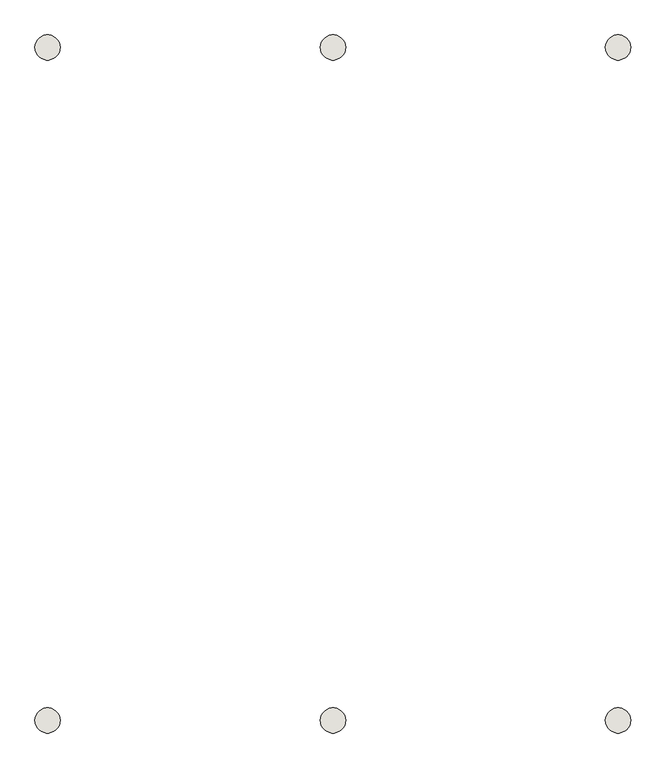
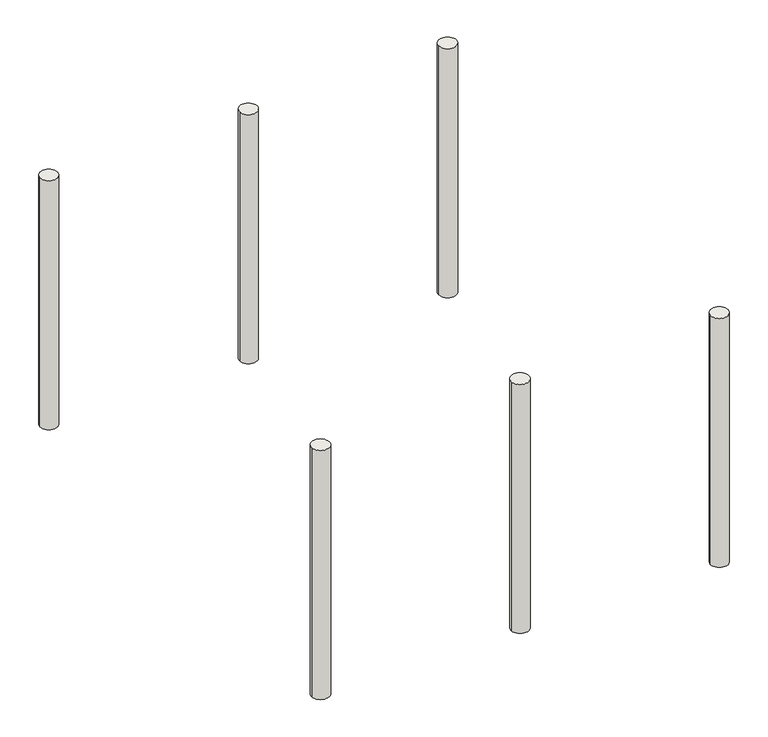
"""IFC4 building model written with IfcOpenShell, lengths in millimetres: wall geometry, SŁUPY : SŁUPY."""

from ifc_helpers import new_model, si_unit, point, frame, frame_2d, origin, place, context, project, spatial, circle_curve, trimmed, segment, composite_curve, outline, extrude, source, transform, mapped, element, save


def wall_78942bb0(model_context):
    return source(origin(), model_context, "Body", "SweptSolid", [
        extrude(outline(composite_curve([segment(trimmed(circle_curve(frame_2d((150981.3278975, 65050.8005963)), 287.0), [point((150694.3278975, 65050.8005963))], [point((151268.3278975, 65050.8005963))], False, "CARTESIAN"), True, "CONTINUOUS"), segment(trimmed(circle_curve(frame_2d((150981.3278975, 65050.8005963)), 287.0), [point((151268.3278975, 65050.8005963))], [point((150694.3278975, 65050.8005963))], False, "CARTESIAN"), True, "CONTINUOUS")], self_intersect=False)), frame((0.0, 0.0, -1239.9999999), z_axis=(0.0, 0.0, 1.0), x_axis=(1.0, 0.0, 0.0)), (0.0, 0.0, 1.0), 8560.0),
        extrude(outline(composite_curve([segment(trimmed(circle_curve(frame_2d((144501.3278975, 65050.8005963)), 287.0), [point((144214.3278975, 65050.8005963))], [point((144788.3278975, 65050.8005963))], False, "CARTESIAN"), True, "CONTINUOUS"), segment(trimmed(circle_curve(frame_2d((144501.3278975, 65050.8005963)), 287.0), [point((144788.3278975, 65050.8005963))], [point((144214.3278975, 65050.8005963))], False, "CARTESIAN"), True, "CONTINUOUS")], self_intersect=False)), frame((0.0, 0.0, -1239.9999999), z_axis=(0.0, 0.0, 1.0), x_axis=(1.0, 0.0, 0.0)), (0.0, 0.0, 1.0), 8560.0),
        extrude(outline(composite_curve([segment(trimmed(circle_curve(frame_2d((138011.3278975, 65050.8005963)), 287.0), [point((137724.3278975, 65050.8005963))], [point((138298.3278975, 65050.8005963))], False, "CARTESIAN"), True, "CONTINUOUS"), segment(trimmed(circle_curve(frame_2d((138011.3278975, 65050.8005963)), 287.0), [point((138298.3278975, 65050.8005963))], [point((137724.3278975, 65050.8005963))], False, "CARTESIAN"), True, "CONTINUOUS")], self_intersect=False)), frame((0.0, 0.0, -1239.9999999), z_axis=(0.0, 0.0, 1.0), x_axis=(1.0, 0.0, 0.0)), (0.0, 0.0, 1.0), 8560.0),
        extrude(outline(composite_curve([segment(trimmed(circle_curve(frame_2d((150981.3278975, 49751.3405963)), 287.0), [point((150694.3278975, 49751.3405963))], [point((151268.3278975, 49751.3405963))], False, "CARTESIAN"), True, "CONTINUOUS"), segment(trimmed(circle_curve(frame_2d((150981.3278975, 49751.3405963)), 287.0), [point((151268.3278975, 49751.3405963))], [point((150694.3278975, 49751.3405963))], False, "CARTESIAN"), True, "CONTINUOUS")], self_intersect=False)), frame((0.0, 0.0, -1239.9999999), z_axis=(0.0, 0.0, 1.0), x_axis=(1.0, 0.0, 0.0)), (0.0, 0.0, 1.0), 8560.0),
        extrude(outline(composite_curve([segment(trimmed(circle_curve(frame_2d((144501.3278975, 49751.3405963)), 287.0), [point((144214.3278975, 49751.3405963))], [point((144788.3278975, 49751.3405963))], False, "CARTESIAN"), True, "CONTINUOUS"), segment(trimmed(circle_curve(frame_2d((144501.3278975, 49751.3405963)), 287.0), [point((144788.3278975, 49751.3405963))], [point((144214.3278975, 49751.3405963))], False, "CARTESIAN"), True, "CONTINUOUS")], self_intersect=False)), frame((0.0, 0.0, -1239.9999999), z_axis=(0.0, 0.0, 1.0), x_axis=(1.0, 0.0, 0.0)), (0.0, 0.0, 1.0), 8560.0),
        extrude(outline(composite_curve([segment(trimmed(circle_curve(frame_2d((138011.3278975, 49751.3405963)), 287.0), [point((137724.3278975, 49751.3405963))], [point((138298.3278975, 49751.3405963))], False, "CARTESIAN"), True, "CONTINUOUS"), segment(trimmed(circle_curve(frame_2d((138011.3278975, 49751.3405963)), 287.0), [point((138298.3278975, 49751.3405963))], [point((137724.3278975, 49751.3405963))], False, "CARTESIAN"), True, "CONTINUOUS")], self_intersect=False)), frame((0.0, 0.0, -1239.9999999), z_axis=(0.0, 0.0, 1.0), x_axis=(1.0, 0.0, 0.0)), (0.0, 0.0, 1.0), 8560.0),
    ])


if __name__ == "__main__":
    model = new_model("IFC4")
    model_context = context("Model", 3, world=origin())
    ifc_project = project(units=[si_unit("LENGTHUNIT", "METRE", prefix="MILLI")], contexts=[model_context])
    site = spatial("IfcSite", under=ifc_project)
    building = spatial("IfcBuilding", under=site)
    placement = place(None, origin())
    wall_shape = wall_78942bb0(model_context)
    element("IfcWall", 1, ObjectType="SŁUPY : SŁUPY", at=placement, inside=building, context=model_context, shape_type="MappedRepresentation", body=[
        mapped(wall_shape, transform((0.0, 0.0, 0.0), x_axis=(1.0, 0.0, 0.0), y_axis=(0.0, 1.0, 0.0), z_axis=(0.0, 0.0, 1.0))),
    ])
    save(model, "model.ifc")
